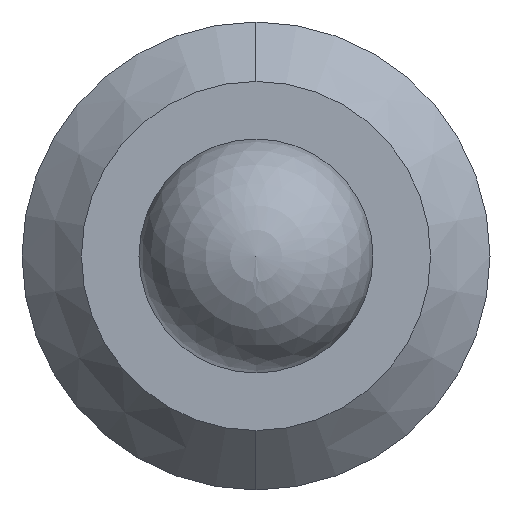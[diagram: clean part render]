
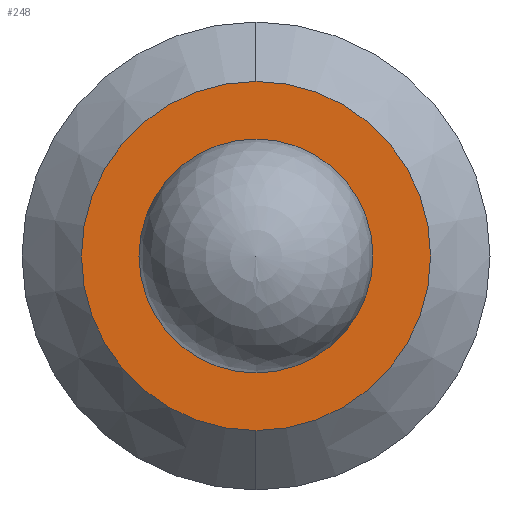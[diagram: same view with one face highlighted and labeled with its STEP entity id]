
A CAD part, left-side view. The second image highlights one B-rep face of the part: STEP entity #248.
In plain terms, the highlighted planar face has unit normal (-1, 0, 0).
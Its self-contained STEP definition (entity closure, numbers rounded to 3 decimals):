
#22 = CARTESIAN_POINT ( 'NONE',  ( 0., 0., 0. ) ) ;
#23 = ORIENTED_EDGE ( 'NONE', *, *, #82, .F. ) ;
#35 = VERTEX_POINT ( 'NONE', #513 ) ;
#42 = VERTEX_POINT ( 'NONE', #239 ) ;
#49 = FACE_OUTER_BOUND ( 'NONE', #211, .T. ) ;
#70 = DIRECTION ( 'NONE',  ( 0., 0., -1. ) ) ;
#82 = EDGE_CURVE ( 'NONE', #442, #42, #413, .T. ) ;
#145 = EDGE_CURVE ( 'NONE', #35, #335, #265, .T. ) ;
#155 = CIRCLE ( 'NONE', #386, 0.5 ) ;
#157 = ORIENTED_EDGE ( 'NONE', *, *, #145, .T. ) ;
#164 = DIRECTION ( 'NONE',  ( 1., 0., 0. ) ) ;
#179 = ORIENTED_EDGE ( 'NONE', *, *, #251, .T. ) ;
#184 = EDGE_LOOP ( 'NONE', ( #23, #596 ) ) ;
#193 = CIRCLE ( 'NONE', #461, 0.746 ) ;
#211 = EDGE_LOOP ( 'NONE', ( #157, #179 ) ) ;
#226 = CARTESIAN_POINT ( 'NONE',  ( 0., 0., 0.5 ) ) ;
#239 = CARTESIAN_POINT ( 'NONE',  ( 0., 0., -0.5 ) ) ;
#244 = CARTESIAN_POINT ( 'NONE',  ( 0., 0., 0. ) ) ;
#247 = DIRECTION ( 'NONE',  ( -1., 0., 0. ) ) ;
#248 = ADVANCED_FACE ( 'NONE', ( #440, #49 ), #444, .F. ) ;
#251 = EDGE_CURVE ( 'NONE', #335, #35, #193, .T. ) ;
#265 = CIRCLE ( 'NONE', #477, 0.746 ) ;
#269 = DIRECTION ( 'NONE',  ( -1., 0., 0. ) ) ;
#288 = DIRECTION ( 'NONE',  ( 0., 0., 1. ) ) ;
#335 = VERTEX_POINT ( 'NONE', #533 ) ;
#348 = CARTESIAN_POINT ( 'NONE',  ( 0., 0., 0. ) ) ;
#349 = DIRECTION ( 'NONE',  ( -1., 0., 0. ) ) ;
#386 = AXIS2_PLACEMENT_3D ( 'NONE', #549, #269, #600 ) ;
#413 = CIRCLE ( 'NONE', #485, 0.5 ) ;
#437 = EDGE_CURVE ( 'NONE', #42, #442, #155, .T. ) ;
#440 = FACE_BOUND ( 'NONE', #184, .T. ) ;
#442 = VERTEX_POINT ( 'NONE', #226 ) ;
#444 = PLANE ( 'NONE',  #490 ) ;
#461 = AXIS2_PLACEMENT_3D ( 'NONE', #22, #349, #70 ) ;
#477 = AXIS2_PLACEMENT_3D ( 'NONE', #520, #247, #573 ) ;
#484 = DIRECTION ( 'NONE',  ( 0., 0., -1. ) ) ;
#485 = AXIS2_PLACEMENT_3D ( 'NONE', #244, #569, #288 ) ;
#490 = AXIS2_PLACEMENT_3D ( 'NONE', #348, #164, #484 ) ;
#513 = CARTESIAN_POINT ( 'NONE',  ( 0., 0., -0.746 ) ) ;
#520 = CARTESIAN_POINT ( 'NONE',  ( 0., 0., 0. ) ) ;
#533 = CARTESIAN_POINT ( 'NONE',  ( 0., 0., 0.746 ) ) ;
#549 = CARTESIAN_POINT ( 'NONE',  ( 0., 0., 0. ) ) ;
#569 = DIRECTION ( 'NONE',  ( -1., 0., 0. ) ) ;
#573 = DIRECTION ( 'NONE',  ( 0., 0., -1. ) ) ;
#596 = ORIENTED_EDGE ( 'NONE', *, *, #437, .F. ) ;
#600 = DIRECTION ( 'NONE',  ( 0., 0., 1. ) ) ;
